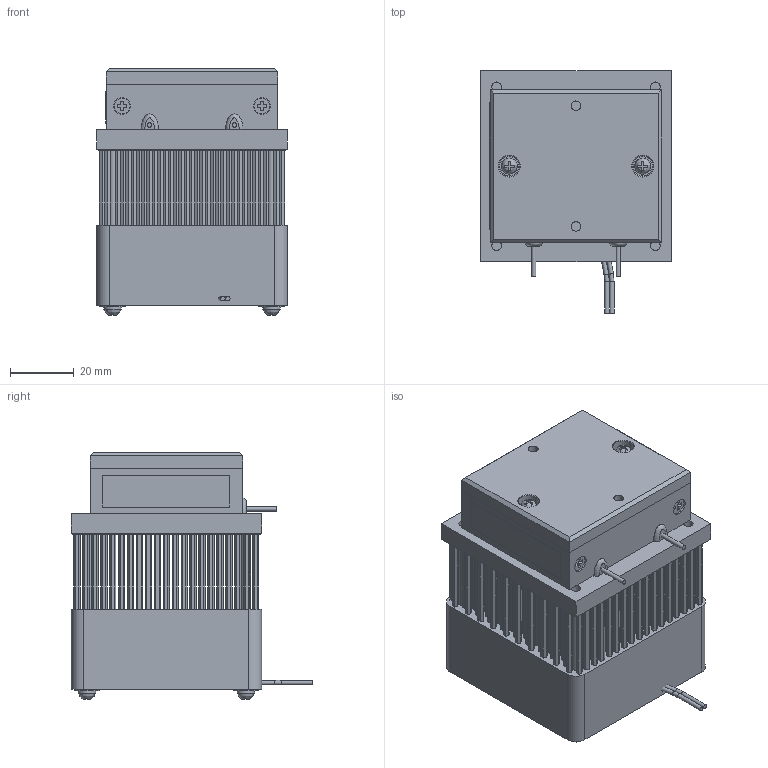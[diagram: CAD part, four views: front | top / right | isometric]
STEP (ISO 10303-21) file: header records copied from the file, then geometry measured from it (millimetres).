
FILE_DESCRIPTION(('STEP AP214'),'1');
FILE_NAME('TKG-311-1500.stp','2026-03-17T02:44:18',(' '),(' '),'Spatial InterOp 3D',' ',' ');
FILE_SCHEMA(('AUTOMOTIVE_DESIGN { 1 0 10303 214 1 1 1 1 }'));
Length unit declared in the file: metre
Products named in the file (13): TKG-311-1500; ヒートシンク; 樹脂枠; 製造番号シール; 皿ネジ; ネジ(ファンモーター用); リード線封止部分; ネジ関連部品; ネジ; ファンリード線; ペルチェ線; 冷却板; DCファンモーター
Assembly tree (12 placements, depth 2):
  TKG-311-1500
    ヒートシンク
    樹脂枠
    製造番号シール
    皿ネジ
    ネジ(ファンモーター用)
    リード線封止部分
    ネジ関連部品
    ネジ
    ファンリード線
    ペルチェ線
    冷却板
    DCファンモーター
Bounding box: 60 x 76.15 x 77.7 mm (x, y, z)
Volume: 185717.3 mm3; surface area: 93242.2 mm2
Topology: 25 solids, 25 shells, 2869 faces, 7394 edges, 4868 vertices
Faces by surface type: plane 2807, cylinder 48, bspline 8, extrusion 2, torus 2, cone 2
Full cylindrical faces by diameter (mm): 1.4 x6, 3 x12, 4.3 x4, 5 x6, 5.2 x4, 5.5 x4, 6 x2, 6.5 x2, 8 x4
Entity records: 109104 total; most frequent: CARTESIAN_POINT 16514, ORIENTED_EDGE 14436, DIRECTION 13016, EDGE_CURVE 7218, VECTOR 7008, LINE 7006, VERTEX_POINT 4842, EDGE_LOOP 3332
